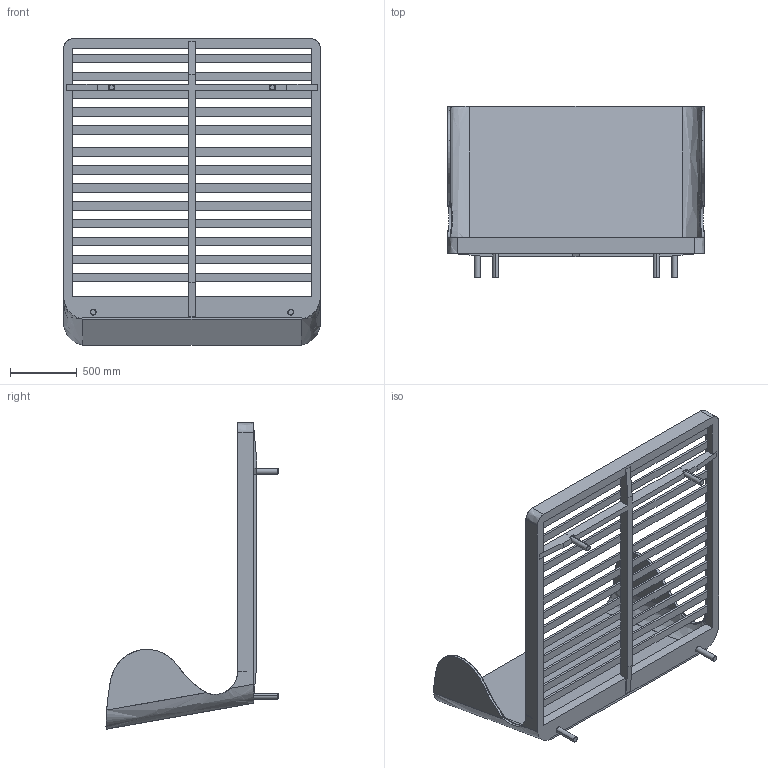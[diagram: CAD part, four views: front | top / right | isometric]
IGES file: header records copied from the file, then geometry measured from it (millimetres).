
Start section: SolidWorks IGES file using analytic representation for surfaces
Global section: file name: C:\Users\David.BDLE\Desktop\265AK Suite Bed_vi_2019-06-13\265AK Suite Bed_3D IGS.IGS; native system: SolidWorks 2016; preprocessor: SolidWorks 2016; author: David; date: 210616.112716; units: millimetre
Bounding box: 1915 x 1284.67 x 2288.71 mm (x, y, z)
Surface area: 12652915.1 mm2 (no closed solid volume)
Topology: 0 solids, 0 shells, 285 faces, 3705 edges, 3705 vertices
Faces by surface type: bspline 211, revolution 74
